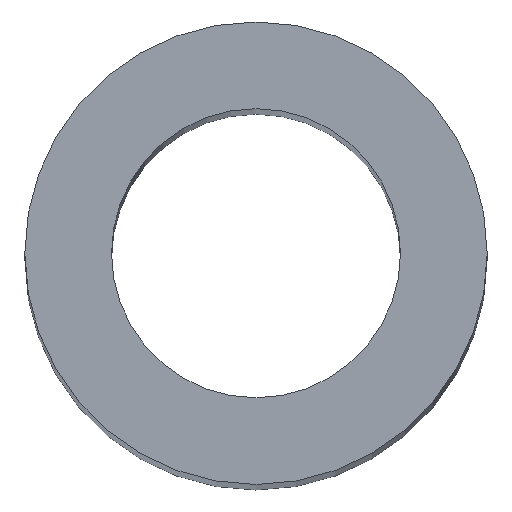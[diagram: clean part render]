
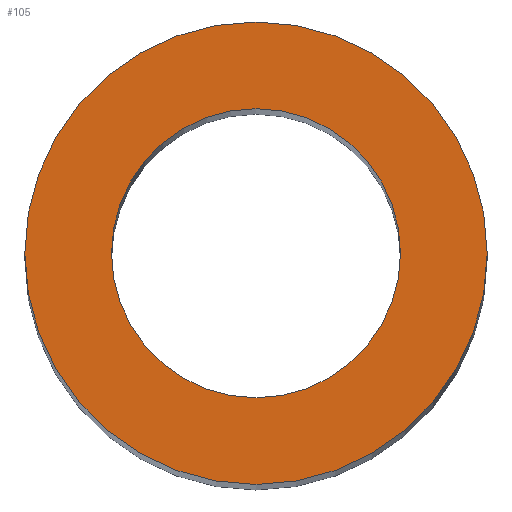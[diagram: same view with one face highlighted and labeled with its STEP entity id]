
A CAD part, top view. The second image highlights one B-rep face of the part: STEP entity #105.
In plain terms, the highlighted planar face has unit normal (0, 0, 1).
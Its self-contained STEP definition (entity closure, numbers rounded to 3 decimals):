
#21 = EDGE_CURVE('',#22,#22,#24,.T.);
#22 = VERTEX_POINT('',#23);
#23 = CARTESIAN_POINT('',(-63.5,116.913,125.));
#24 = SURFACE_CURVE('',#25,(#30,#42),.PCURVE_S1.);
#25 = CIRCLE('',#26,4.);
#26 = AXIS2_PLACEMENT_3D('',#27,#28,#29);
#27 = CARTESIAN_POINT('',(-67.5,116.913,125.));
#28 = DIRECTION('',(0.,0.,1.));
#29 = DIRECTION('',(1.,0.,-0.));
#30 = PCURVE('',#31,#36);
#31 = CYLINDRICAL_SURFACE('',#32,4.);
#32 = AXIS2_PLACEMENT_3D('',#33,#34,#35);
#33 = CARTESIAN_POINT('',(-67.5,116.913,70.));
#34 = DIRECTION('',(0.,0.,1.));
#35 = DIRECTION('',(1.,0.,-0.));
#36 = DEFINITIONAL_REPRESENTATION('',(#37),#41);
#37 = LINE('',#38,#39);
#38 = CARTESIAN_POINT('',(0.,55.));
#39 = VECTOR('',#40,1.);
#40 = DIRECTION('',(1.,0.));
#41 = ( GEOMETRIC_REPRESENTATION_CONTEXT(2) 
PARAMETRIC_REPRESENTATION_CONTEXT() REPRESENTATION_CONTEXT('2D SPACE',''
  ) );
#42 = PCURVE('',#43,#48);
#43 = PLANE('',#44);
#44 = AXIS2_PLACEMENT_3D('',#45,#46,#47);
#45 = CARTESIAN_POINT('',(-67.5,116.913,125.));
#46 = DIRECTION('',(0.,0.,1.));
#47 = DIRECTION('',(1.,0.,-0.));
#48 = DEFINITIONAL_REPRESENTATION('',(#49),#53);
#49 = CIRCLE('',#50,4.);
#50 = AXIS2_PLACEMENT_2D('',#51,#52);
#51 = CARTESIAN_POINT('',(0.,0.));
#52 = DIRECTION('',(1.,0.));
#53 = ( GEOMETRIC_REPRESENTATION_CONTEXT(2) 
PARAMETRIC_REPRESENTATION_CONTEXT() REPRESENTATION_CONTEXT('2D SPACE',''
  ) );
#105 = ADVANCED_FACE('',(#106,#109),#43,.T.);
#106 = FACE_BOUND('',#107,.T.);
#107 = EDGE_LOOP('',(#108));
#108 = ORIENTED_EDGE('',*,*,#21,.T.);
#109 = FACE_BOUND('',#110,.T.);
#110 = EDGE_LOOP('',(#111));
#111 = ORIENTED_EDGE('',*,*,#112,.F.);
#112 = EDGE_CURVE('',#113,#113,#115,.T.);
#113 = VERTEX_POINT('',#114);
#114 = CARTESIAN_POINT('',(-65.,116.913,125.));
#115 = SURFACE_CURVE('',#116,(#121,#128),.PCURVE_S1.);
#116 = CIRCLE('',#117,2.5);
#117 = AXIS2_PLACEMENT_3D('',#118,#119,#120);
#118 = CARTESIAN_POINT('',(-67.5,116.913,125.));
#119 = DIRECTION('',(0.,0.,1.));
#120 = DIRECTION('',(1.,0.,-0.));
#121 = PCURVE('',#43,#122);
#122 = DEFINITIONAL_REPRESENTATION('',(#123),#127);
#123 = CIRCLE('',#124,2.5);
#124 = AXIS2_PLACEMENT_2D('',#125,#126);
#125 = CARTESIAN_POINT('',(0.,0.));
#126 = DIRECTION('',(1.,0.));
#127 = ( GEOMETRIC_REPRESENTATION_CONTEXT(2) 
PARAMETRIC_REPRESENTATION_CONTEXT() REPRESENTATION_CONTEXT('2D SPACE',''
  ) );
#128 = PCURVE('',#129,#134);
#129 = CYLINDRICAL_SURFACE('',#130,2.5);
#130 = AXIS2_PLACEMENT_3D('',#131,#132,#133);
#131 = CARTESIAN_POINT('',(-67.5,116.913,70.));
#132 = DIRECTION('',(0.,0.,1.));
#133 = DIRECTION('',(1.,0.,-0.));
#134 = DEFINITIONAL_REPRESENTATION('',(#135),#139);
#135 = LINE('',#136,#137);
#136 = CARTESIAN_POINT('',(0.,55.));
#137 = VECTOR('',#138,1.);
#138 = DIRECTION('',(1.,0.));
#139 = ( GEOMETRIC_REPRESENTATION_CONTEXT(2) 
PARAMETRIC_REPRESENTATION_CONTEXT() REPRESENTATION_CONTEXT('2D SPACE',''
  ) );
